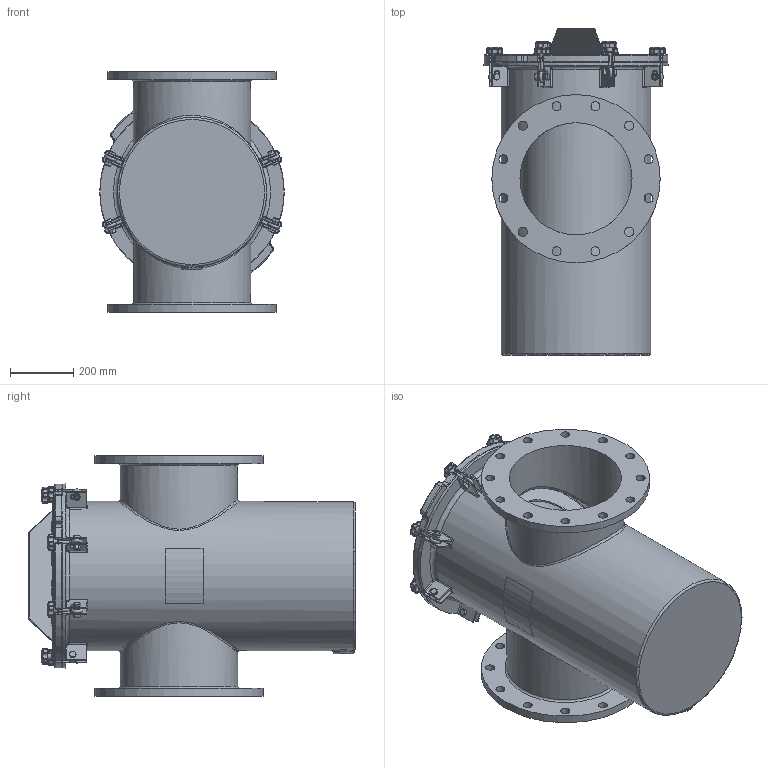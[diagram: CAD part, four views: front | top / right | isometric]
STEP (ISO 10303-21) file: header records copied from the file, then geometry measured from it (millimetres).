
FILE_DESCRIPTION(/* description */ ('STRAINER BODY'),/* implementation_level */ '2;1');
FILE_NAME(/* name */ 'Z:\Output\Strainers\11-14-2016\CAD\1500NBFG14R1.stp',/* time_stamp */ '2016-11-16T20:07:40+06:00',/* author */ ('20093558'),/* organization */ (''),/* preprocessor_version */ 'ST-DEVELOPER v16.1',/* originating_system */ 'Autodesk Inventor 2016',/* authorisation */ '');
FILE_SCHEMA (('AUTOMOTIVE_DESIGN { 1 0 10303 214 3 1 1 }'));
Length unit declared in the file: inch
Products named in the file (24): NBFG14BODYR1; 150NBCVR18R2; 150NBGSK18R1; Perforated Basket 18in; Bride (Ring) 18in; Baffle 18in; Handle 18in; Bottom Strainer 18in; NBBSK14T316; BRACESTRCVR18_Welds; BRACE (BASE) FOR 18 BODY; BRACE (PROJ) FOR 18 BODY; Bumper; BRACESTRCVR18; Nut- 1_2  UNC; Bolt-1_2 x 1 1_2  UNC; EyeBolt; Washer; Knob M10; Securing Assembly For FG  with Brace; Securing Assembly For FG without Brace; Label for 18.625 inch (Right); Label for 18.625 inch (Left); Guardian FG H&L Strainer (Inch)
Assembly tree (39 placements, depth 3):
  Guardian FG H&L Strainer (Inch)
    NBFG14BODYR1
    150NBCVR18R2
    150NBGSK18R1
    NBBSK14T316
      Perforated Basket 18in
      Bride (Ring) 18in
      Baffle 18in
      Handle 18in
      Bottom Strainer 18in
    BRACESTRCVR18
      BRACESTRCVR18_Welds
      BRACE (BASE) FOR 18 BODY
      BRACE (PROJ) FOR 18 BODY
      Bumper  x6
    Securing Assembly For FG  with Brace  x2
      Nut- 1_2  UNC
      Bolt-1_2 x 1 1_2  UNC
      EyeBolt
      Washer
      Knob M10
    Securing Assembly For FG without Brace  x6
      Nut- 1_2  UNC
      Bolt-1_2 x 1 1_2  UNC
      EyeBolt
      Washer
      Knob M10
    Label for 18.625 inch (Right)
    Label for 18.625 inch (Left)
Bounding box: 584.2 x 1035.05 x 762 mm (x, y, z)
Volume: 30367902.1 mm3; surface area: 7418205.6 mm2
Topology: 67 solids, 67 shells, 1838 faces, 4193 edges, 2479 vertices
Faces by surface type: cylinder 675, plane 511, cone 184, torus 169, sphere 158, bspline 141
Full cylindrical faces by diameter (mm): 3.175 x11, 6.35 x1, 8.382 x8, 9.525 x16, 10.592 x8, 12.7 x8, 15.875 x16, 19 x16, 19.05 x8, 22.809 x1, 28.575 x24, 31.75 x8, 352.425 x2, 355.6 x3, 358.14 x1, 371.475 x2, 457.2 x3, 463.55 x1, 473.075 x1, 520.7 x1, 527.05 x1, 533.4 x2
Entity records: 35065 total; most frequent: CARTESIAN_POINT 11500, DIRECTION 4862, ORIENTED_EDGE 4456, EDGE_CURVE 2228, AXIS2_PLACEMENT_3D 1991, VERTEX_POINT 1398, EDGE_LOOP 1212, ADVANCED_FACE 988
